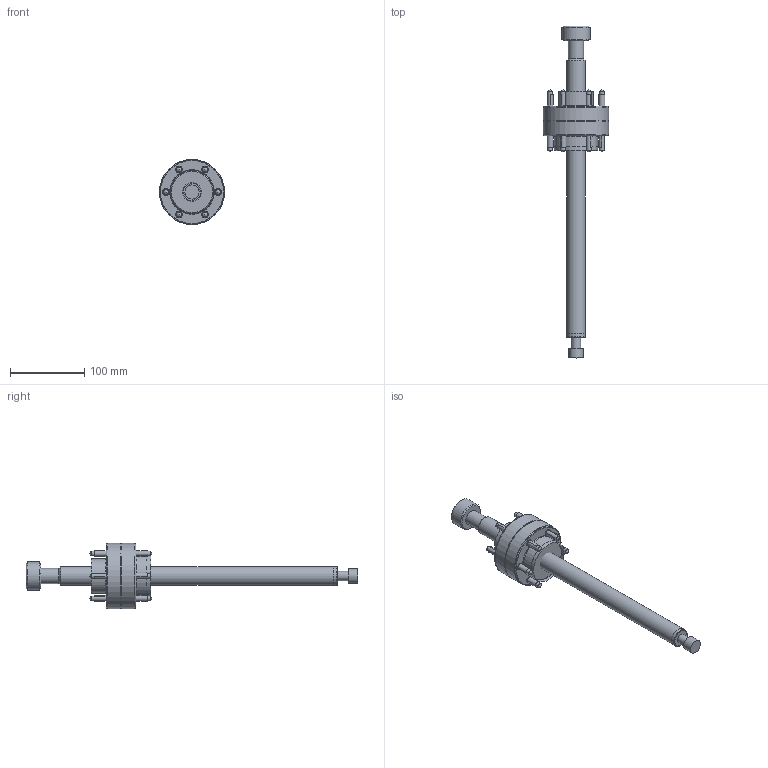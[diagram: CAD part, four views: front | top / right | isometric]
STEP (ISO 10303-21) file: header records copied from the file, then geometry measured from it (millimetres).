
FILE_DESCRIPTION (( 'STEP AP214' ), '1' );
FILE_NAME ('AS-25X400 SEMPLIFICATO.STEP', '2026-07-08T14:04:10', ( '' ), ( '' ), 'SwSTEP 2.0', 'SolidWorks 2025', '' );
FILE_SCHEMA (( 'AUTOMOTIVE_DESIGN' ));
Length unit declared in the file: millimetre
Products named in the file (9): AS-25 FLANGIA_SEMPLIFICATO; AS-25X400 SEMPLIFICATO; iso 4762 m12 x 30 - 30n_ISO 4762 M12 x 30 - 30N; AS-25 TESTA STELO_SEMPLIFICATO; AS-25 SEDE CORPO SEMPLIFICATO; AS-25 SEDE STELO; AS-25 CORPO_SEMPLIFICATO; AS-25 STELO_SEMPLIFICATO; AS-25 SEDE FLANGIA SEMPLIFICATO
Assembly tree (8 placements, depth 2):
  AS-25X400 SEMPLIFICATO
    AS-25 CORPO_SEMPLIFICATO
    AS-25 FLANGIA_SEMPLIFICATO
    AS-25 STELO_SEMPLIFICATO
    AS-25 TESTA STELO_SEMPLIFICATO
    iso 4762 m12 x 30 - 30n_ISO 4762 M12 x 30 - 30N
    AS-25 SEDE CORPO SEMPLIFICATO
    AS-25 SEDE FLANGIA SEMPLIFICATO
    AS-25 SEDE STELO
Bounding box: 88 x 448 x 88 mm (x, y, z)
Volume: 496529.2 mm3; surface area: 125740 mm2
Topology: 6 solids, 32 shells, 201 faces, 463 edges, 310 vertices
Faces by surface type: cylinder 75, plane 61, cone 56, torus 9
Full cylindrical faces by diameter (mm): 6.5 x12, 8.4 x6, 8.5 x6, 10.2 x1, 12 x1, 12.5 x2, 13.1 x6, 13.2 x6, 18 x1, 18.5 x1, 19 x1, 20.5 x2, 25 x1, 25.1 x1, 38 x1, 43.7 x1, 44.2 x1, 46 x1, 48.2 x1, 48.9 x1, 58 x1, 58.5 x1, 88 x4
Entity records: 5316 total; most frequent: DIRECTION 930, CARTESIAN_POINT 769, ORIENTED_EDGE 520, AXIS2_PLACEMENT_3D 425, EDGE_LOOP 366, EDGE_CURVE 292, FACE_OUTER_BOUND 269, VERTEX_POINT 264
